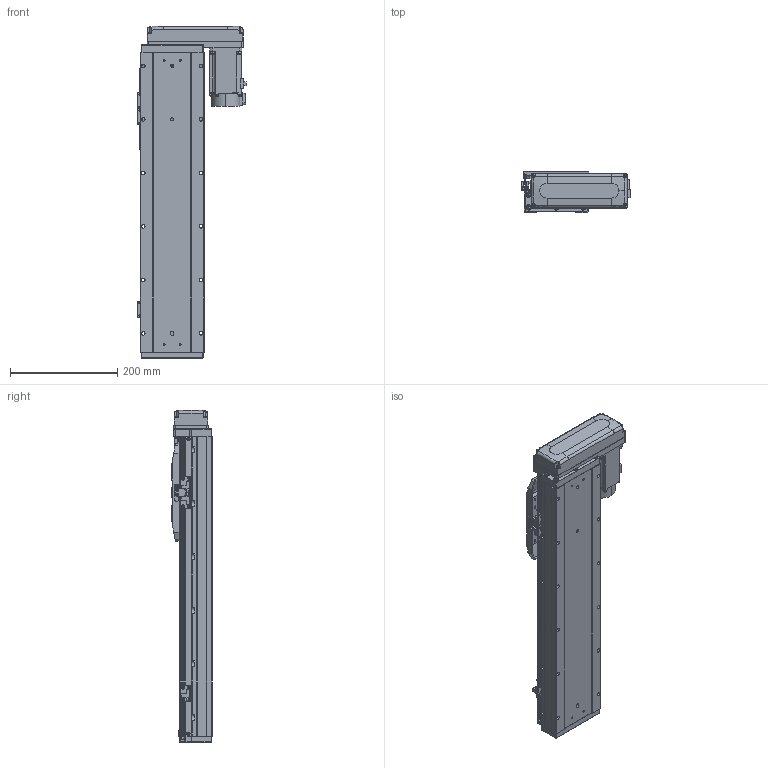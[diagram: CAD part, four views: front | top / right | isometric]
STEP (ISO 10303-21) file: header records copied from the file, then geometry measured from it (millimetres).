
FILE_DESCRIPTION (( 'STEP AP203' ), '1' );
FILE_NAME ('GTH12-350-BL-M40-C4.step', '2025-07-16T03:41:08', ( '' ), ( '' ), 'SwSTEP 2.0', 'SolidWorks 2023', '' );
FILE_SCHEMA (( 'CONFIG_CONTROL_DESIGN' ));
Length unit declared in the file: millimetre
Products named in the file (17): GTH120-013; GBT 70.1-M3×6; hg-kn43j_-s100_; BTH-M3X5X6; GTH120-027-1_GTH120-027-2; 感应器总成右; GTH80-028; GBT 70.1-M5×16; GTH12-350-BL-M40-C4; GTH120-006; GTH120-001_350; GTH80-022; 感应器总成左; GBT 70.3-M3×8; GTH120-004; CTHA86-033_M40B; GTH120-003
Assembly tree (38 placements, depth 2):
  GTH12-350-BL-M40-C4
    GTH120-001_350
    GTH120-003
    GTH120-006
    GTH120-004
    GTH120-013
    GBT 70.1-M3×6  x2
    GBT 70.1-M5×16  x10
    GBT 70.3-M3×8  x4
    GTH80-022
    GTH80-028  x2
    BTH-M3X5X6  x8
    hg-kn43j_-s100_
    CTHA86-033_M40B
    GTH120-027-1_GTH120-027-2
    感应器总成右  x2
    感应器总成左
Bounding box: 203.5 x 76 x 620.5 mm (x, y, z)
Volume: 4899096.8 mm3; surface area: 508393.7 mm2
Topology: 55 solids, 55 shells, 2336 faces, 5467 edges, 3367 vertices
Faces by surface type: plane 1204, cylinder 664, cone 292, torus 162, sphere 8, bspline 6
Entity records: 50633 total; most frequent: CARTESIAN_POINT 8668, DIRECTION 8550, ORIENTED_EDGE 7926, EDGE_CURVE 3963, AXIS2_PLACEMENT_3D 2982, LINE 2586, VECTOR 2586, VERTEX_POINT 2500
